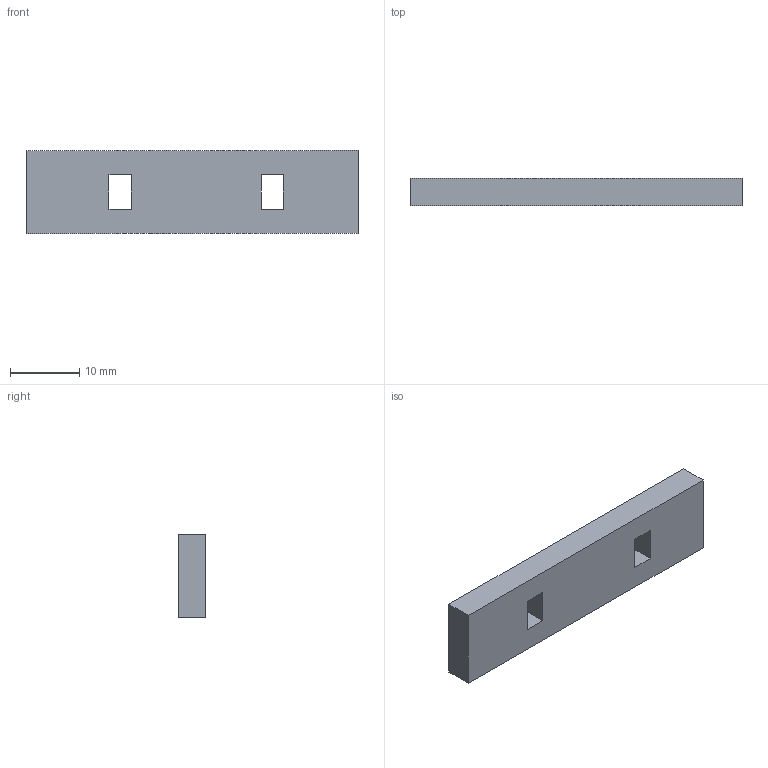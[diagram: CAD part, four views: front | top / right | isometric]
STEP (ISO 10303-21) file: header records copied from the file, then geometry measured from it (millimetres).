
FILE_DESCRIPTION(('FreeCAD Model'),'2;1');
FILE_NAME('Open CASCADE Shape Model','2026-09-11T14:18:25',( '' ),( '' ),'Open CASCADE STEP processor 7.8','FreeCAD','Unknown');
FILE_SCHEMA(('AUTOMOTIVE_DESIGN { 1 0 10303 214 1 1 1 1 }'));
Length unit declared in the file: millimetre
Products named in the file (1): Open CASCADE STEP translator 7.8 8
Bounding box: 48 x 4 x 12 mm (x, y, z)
Volume: 2176 mm3; surface area: 1699.2 mm2
Topology: 1 solids, 1 shells, 14 faces, 36 edges, 24 vertices
Faces by surface type: plane 14
Entity records: 438 total; most frequent: CARTESIAN_POINT 75, ORIENTED_EDGE 72, DIRECTION 66, EDGE_CURVE 36, LINE 36, VECTOR 36, VERTEX_POINT 24, FACE_BOUND 18
